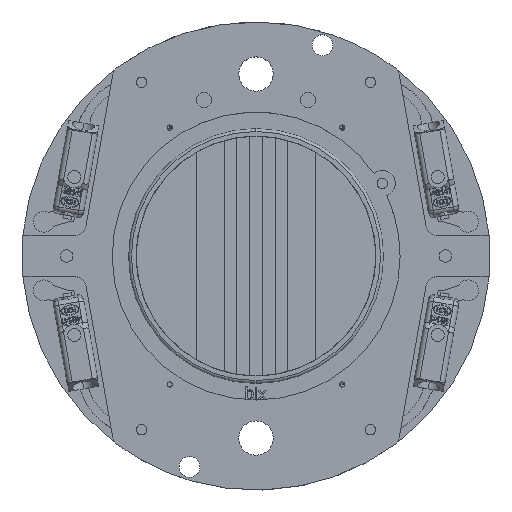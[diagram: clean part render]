
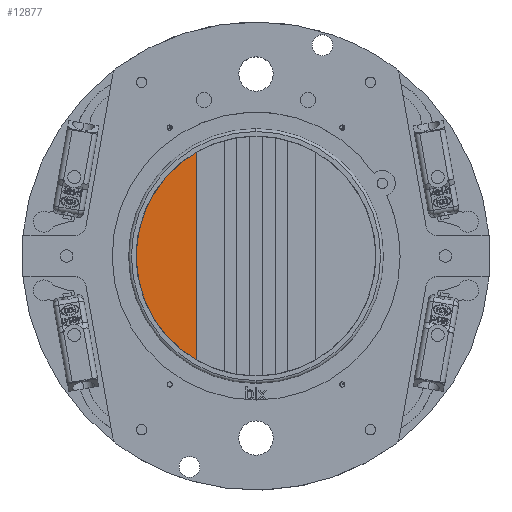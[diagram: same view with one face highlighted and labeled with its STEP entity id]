
A CAD part, top view. The second image highlights one B-rep face of the part: STEP entity #12877.
In plain terms, the highlighted planar face has unit normal (0, 0, 1).
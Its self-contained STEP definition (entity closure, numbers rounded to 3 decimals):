
#7664 = EDGE_LOOP ( 'NONE', ( #13744, #81966 ) ) ;
#12877 = ADVANCED_FACE ( 'NONE', ( #26186 ), #77772, .F. ) ;
#13744 = ORIENTED_EDGE ( 'NONE', *, *, #51088, .F. ) ;
#15157 = CIRCLE ( 'NONE', #34694, 11.515 ) ;
#17612 = DIRECTION ( 'NONE',  ( 0., -1., 0. ) ) ;
#19092 = CARTESIAN_POINT ( 'NONE',  ( -11.515, 0., 0.614 ) ) ;
#21702 = CARTESIAN_POINT ( 'NONE',  ( -5.725, 9.991, 0.614 ) ) ;
#25605 = CARTESIAN_POINT ( 'NONE',  ( -5.725, 15.812, 0.614 ) ) ;
#26186 = FACE_OUTER_BOUND ( 'NONE', #7664, .T. ) ;
#29125 = CARTESIAN_POINT ( 'NONE',  ( -5.725, -9.991, 0.614 ) ) ;
#34124 = DIRECTION ( 'NONE',  ( 0., 0., -1. ) ) ;
#34694 = AXIS2_PLACEMENT_3D ( 'NONE', #48483, #68387, #91515 ) ;
#48483 = CARTESIAN_POINT ( 'NONE',  ( 0., 0., 0.614 ) ) ;
#51088 = EDGE_CURVE ( 'NONE', #85410, #85193, #15157, .T. ) ;
#52707 = AXIS2_PLACEMENT_3D ( 'NONE', #19092, #34124, #92326 ) ;
#67242 = LINE ( 'NONE', #25605, #76458 ) ;
#68387 = DIRECTION ( 'NONE',  ( 0., 0., -1. ) ) ;
#76458 = VECTOR ( 'NONE', #17612, 1000. ) ;
#77772 = PLANE ( 'NONE',  #52707 ) ;
#81966 = ORIENTED_EDGE ( 'NONE', *, *, #90580, .F. ) ;
#85193 = VERTEX_POINT ( 'NONE', #21702 ) ;
#85410 = VERTEX_POINT ( 'NONE', #29125 ) ;
#90580 = EDGE_CURVE ( 'NONE', #85193, #85410, #67242, .T. ) ;
#91515 = DIRECTION ( 'NONE',  ( 0., 1., 0. ) ) ;
#92326 = DIRECTION ( 'NONE',  ( 0., 1., 0. ) ) ;
